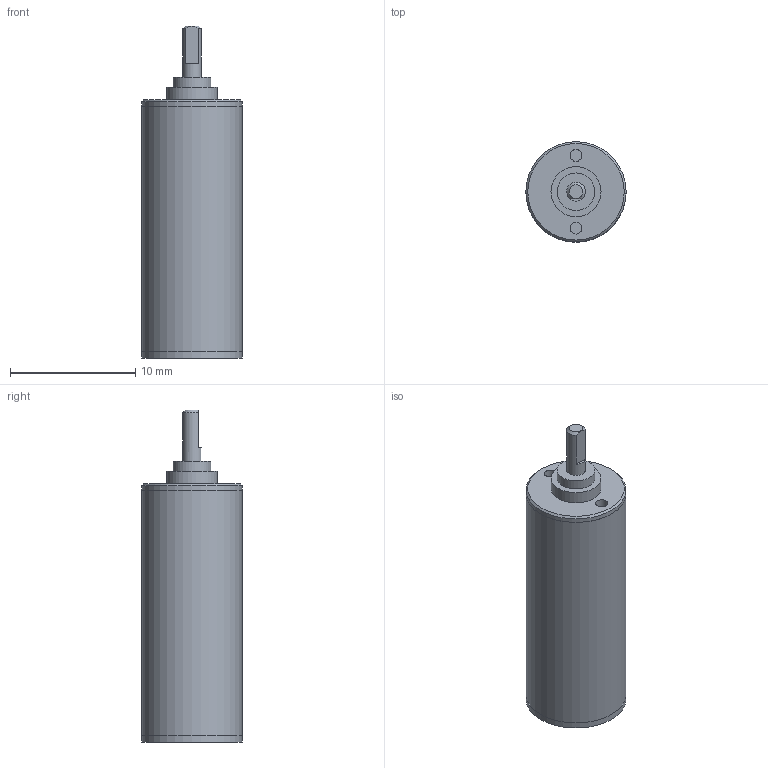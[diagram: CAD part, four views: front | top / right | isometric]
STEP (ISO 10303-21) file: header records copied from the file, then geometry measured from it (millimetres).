
FILE_DESCRIPTION(/* description */ (''),/* implementation_level */ '2;1');
FILE_NAME(/* name */ '08-2K_7.stp',/* time_stamp */ '2016-08-23T14:21:36+02:00',/* author */ ('DR. FRITZ FAULHABER GmbH & Co. KG'),/* organization */ ('DR. FRITZ FAULHABER GmbH & Co. KG'),/* preprocessor_version */ 'ST-DEVELOPER v16',/* originating_system */ 'SIEMENS PLM Software NX 10.0',/* authorisation */ '');
FILE_SCHEMA (('AUTOMOTIVE_DESIGN { 1 0 10303 214 3 1 1 1 }'));
Length unit declared in the file: millimetre
Products named in the file (1): H00000401_A
Bounding box: 8 x 8 x 26.5 mm (x, y, z)
Volume: 989.3 mm3; surface area: 724.6 mm2
Topology: 1 solids, 1 shells, 33 faces, 56 edges, 37 vertices
Faces by surface type: plane 16, cylinder 14, cone 3
Full cylindrical faces by diameter (mm): 0.95 x2, 1.5 x1, 2.13 x1, 2.53 x1, 3 x1, 4 x1, 4.959 x1, 6 x1, 7.99 x2, 8 x3
Entity records: 709 total; most frequent: DIRECTION 133, CARTESIAN_POINT 115, ORIENTED_EDGE 72, AXIS2_PLACEMENT_3D 65, EDGE_LOOP 61, FACE_BOUND 54, EDGE_CURVE 36, ADVANCED_FACE 33
